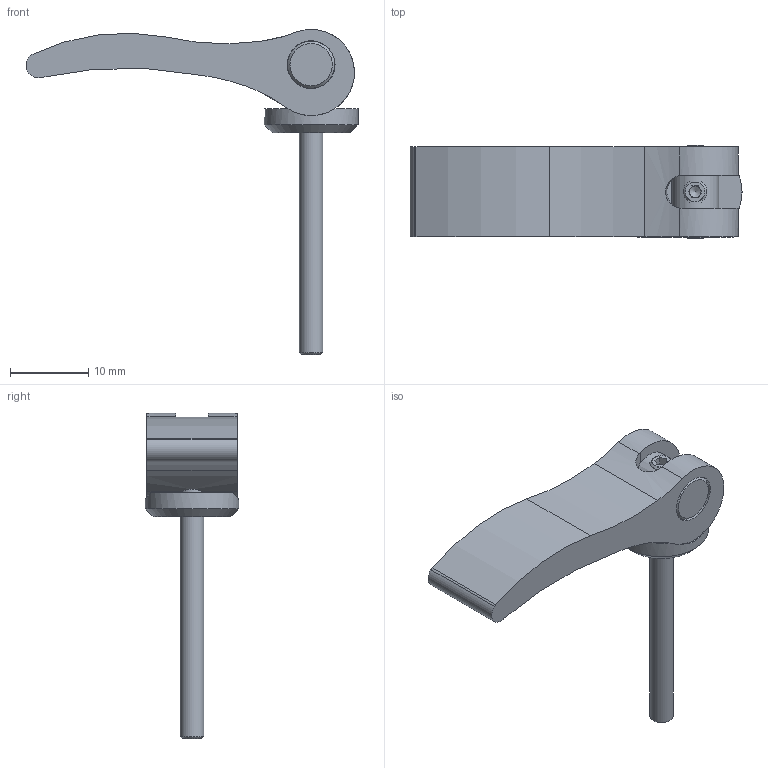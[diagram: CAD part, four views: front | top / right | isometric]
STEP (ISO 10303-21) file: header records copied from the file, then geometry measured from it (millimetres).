
FILE_DESCRIPTION(('STEP AP203'), '1');
FILE_NAME('À00360.11420310 _ Ýêñöåíòðèê 42 ìì', '', ('UNSPECIFIED'), ('UNSPECIFIED'), 'C3D Converter', 'C3D Toolkit', '');
FILE_SCHEMA(('CONFIG_CONTROL_DESIGN'));
Length unit declared in the file: millimetre
Products named in the file (5): А00360.42.03; А00360.42.02; А00360.42.01
Assembly tree (4 placements, depth 2):
  (unnamed)
    А00360.42.03
    А00360.42.02
    А00360.42.01
    (unnamed)
Bounding box: 42.36 x 11.94 x 41.5 mm (x, y, z)
Volume: 2968.5 mm3; surface area: 2677.1 mm2
Topology: 4 solids, 4 shells, 49 faces, 121 edges, 78 vertices
Faces by surface type: plane 23, cylinder 20, cone 6
Full cylindrical faces by diameter (mm): 2.459 x1, 3 x1, 4.5 x1, 6 x1, 6.1 x2, 11.94 x1
Entity records: 2388 total; most frequent: CARTESIAN_POINT 947, DIRECTION 250, ORIENTED_EDGE 214, EDGE_CURVE 107, AXIS2_PLACEMENT_3D 104, VERTEX_POINT 77, EDGE_LOOP 68, FACE_BOUND 55
